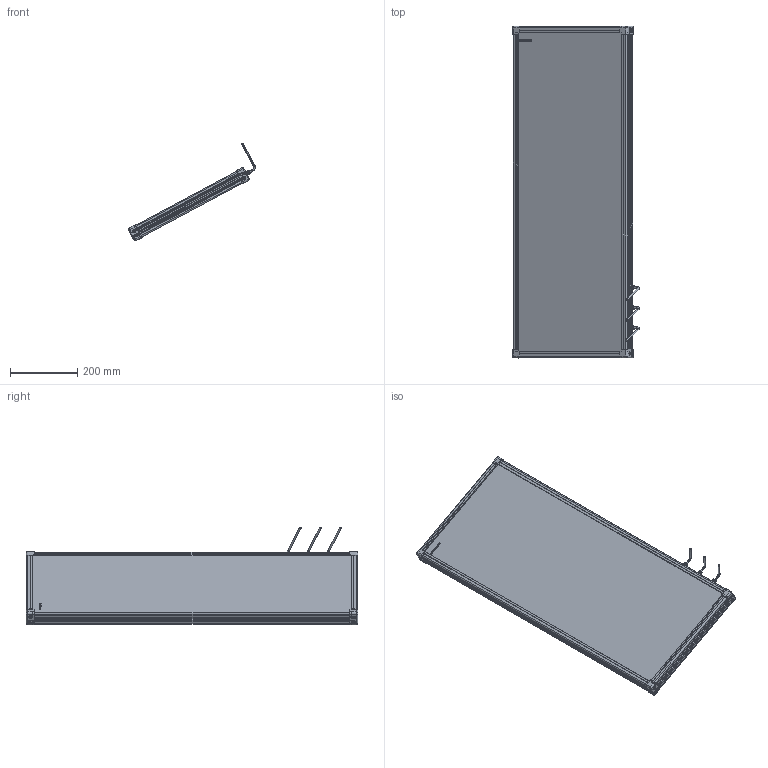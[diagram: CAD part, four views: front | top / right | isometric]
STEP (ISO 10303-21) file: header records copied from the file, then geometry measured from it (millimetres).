
FILE_DESCRIPTION (( 'STEP AP214' ), '1' );
FILE_NAME ('EFFI-BL-350-950-ZZZ 3xM12.STEP', '2021-06-18T13:05:53', ( '' ), ( '' ), 'SwSTEP 2.0', 'SolidWorks 2021', '' );
FILE_SCHEMA (( 'AUTOMOTIVE_DESIGN' ));
Length unit declared in the file: millimetre
Products named in the file (9): Pièce13^EFFI-BL-XXX-YYY-ZZZ -3M12; EFFI-BL-350-950-ZZZ 3xM12; profile Y_PERCE; 000629; petite joue; petite joue + vis; cordon_Avec cable; profile X_PERCE
Assembly tree (15 placements, depth 3):
  EFFI-BL-350-950-ZZZ 3xM12
    profile X_PERCE  x2
    profile Y_PERCE
    profile Y_PERCE
    Pièce13^EFFI-BL-XXX-YYY-ZZZ -3M12
    petite joue + vis  x4
      petite joue
      000629
    cordon_Avec cable  x3
Bounding box: 377.99 x 989 x 290.53 mm (x, y, z)
Volume: 13380985.1 mm3; surface area: 1175013.6 mm2
Topology: 17 solids, 35 shells, 3755 faces, 10039 edges, 6637 vertices
Faces by surface type: plane 2470, cylinder 624, bspline 609, torus 30, cone 22
Entity records: 51051 total; most frequent: CARTESIAN_POINT 21838, ORIENTED_EDGE 6208, DIRECTION 4721, EDGE_CURVE 3108, LINE 2305, VECTOR 2305, VERTEX_POINT 2064, EDGE_LOOP 1260
